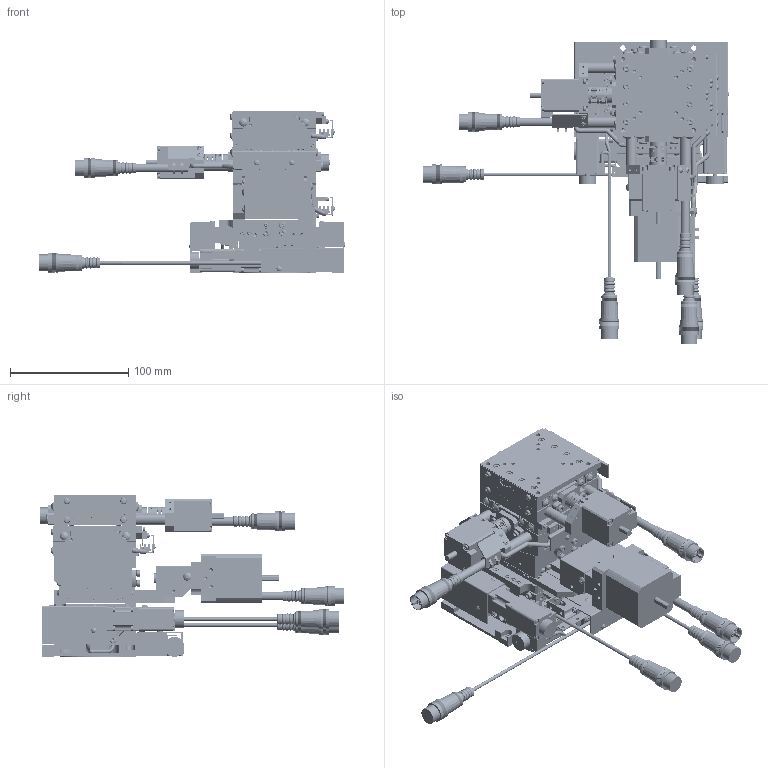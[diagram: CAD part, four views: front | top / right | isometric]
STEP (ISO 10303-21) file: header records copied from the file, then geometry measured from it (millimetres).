
FILE_DESCRIPTION (( 'STEP AP203' ), '1' );
FILE_NAME ('DR117345-0001-000-00.STEP', '2020-02-28T00:41:52', ( '' ), ( '' ), 'SwSTEP 2.0', 'SolidWorks 2018', '' );
FILE_SCHEMA (( 'CONFIG_CONTROL_DESIGN' ));
Length unit declared in the file: millimetre
Products named in the file (42): base-2; base-Part-1-1; base-Part-3-1; base-Part-3; base-1; table-Part-1; 榋妏寠晅无倌_M4_8-1; base-Part-2; 榋妏寠晅无倌_M4_8-5; 運搬治具; table; 榋妏寠晅无倌_M4_8-7; Xﾃｰﾌﾞﾙ; base-Part-2-2; DR117345-0001-000-00; base-Part-3-2; base-Part-1; Yﾃｰﾌﾞﾙ; table-Part-2-1; table-Part-5; table-Part-6; table-Part-3; 中心線-Part-1; table-Part-1-1; 回転ﾃｰﾌﾞﾙ; 榋妏寠晅无倌_M4_8-3; DP114593-1210-00; secound table; 榋妏寠晅无倌_M4_8-4; base; table-Part-4; table-1; 榋妏寠晅无倌_M4_8-2; table-Part-3-1; 榋妏寠晅无倌_M4_8-6; base-Part-2-1; base-Part-1-2; 俅偷; 榋妏寠晅无倌_M4_8; table-Part-2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
Assembly tree (40 placements, depth 3):
  DR117345-0001-000-00
    table
      table-Part-1
      table-Part-2
      table-Part-3
      table-Part-4
      table-Part-5
      table-Part-6
    base
      base-Part-1
      base-Part-2
      base-Part-3
    table-1
      table-Part-1-1
      table-Part-2-1
      table-Part-3-1
    base-1
      base-Part-1-1
      base-Part-2-1
      base-Part-3-1
    base-2
      base-Part-1-2
      base-Part-2-2
      base-Part-3-2
    secound table
    運搬治具
    回転ﾃｰﾌﾞﾙ
    俅偷
    Yﾃｰﾌﾞﾙ
    Xﾃｰﾌﾞﾙ
    榋妏寠晅无倌_M4_8
    榋妏寠晅无倌_M4_8-1
    榋妏寠晅无倌_M4_8-2
    榋妏寠晅无倌_M4_8-3
    榋妏寠晅无倌_M4_8-4
    榋妏寠晅无倌_M4_8-5
    榋妏寠晅无倌_M4_8-6
    榋妏寠晅无倌_M4_8-7
    table
    DP114593-1210-00
    DP114593-1210-00-1
  中心線-Part-1
Bounding box: 259.75 x 258 x 137 mm (x, y, z)
Volume: 1076299.9 mm3; surface area: 389679.3 mm2
Topology: 35 solids, 146 shells, 12728 faces, 30934 edges, 18835 vertices
Faces by surface type: plane 7068, cylinder 3260, cone 1984, torus 276, sphere 128, bspline 12
Entity records: 377361 total; most frequent: CARTESIAN_POINT 70193, DIRECTION 66247, ORIENTED_EDGE 60640, EDGE_CURVE 30320, AXIS2_PLACEMENT_3D 23788, VERTEX_POINT 18815, LINE 18671, VECTOR 18671
